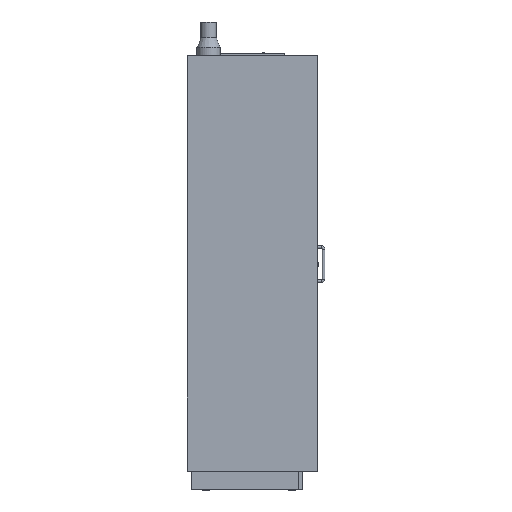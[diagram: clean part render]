
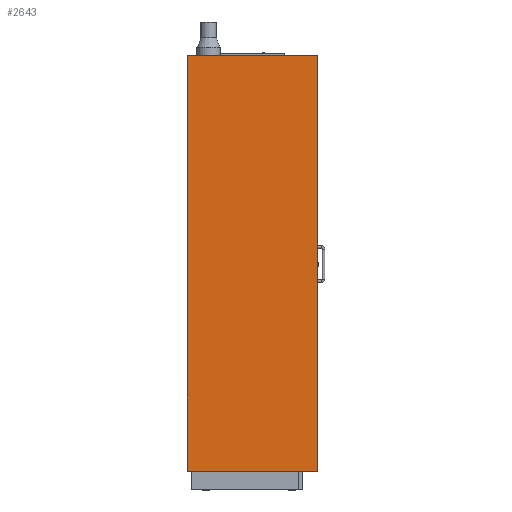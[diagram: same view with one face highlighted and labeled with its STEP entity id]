
A CAD part, left-side view. The second image highlights one B-rep face of the part: STEP entity #2643.
In plain terms, the highlighted planar face has unit normal (-1, 0, 0).
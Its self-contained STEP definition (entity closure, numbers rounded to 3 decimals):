
#81=LINE('',#3573,#269);
#89=LINE('',#3598,#277);
#118=LINE('',#3669,#306);
#123=LINE('',#3679,#311);
#135=LINE('',#3703,#323);
#136=LINE('',#3705,#324);
#137=LINE('',#3707,#325);
#138=LINE('',#3708,#326);
#269=VECTOR('',#3038,1000.);
#277=VECTOR('',#3056,1000.);
#306=VECTOR('',#3115,1000.);
#311=VECTOR('',#3122,1000.);
#323=VECTOR('',#3146,1000.);
#324=VECTOR('',#3149,1000.);
#325=VECTOR('',#3150,1000.);
#326=VECTOR('',#3151,1000.);
#445=PLANE('',#2783);
#715=ORIENTED_EDGE('',*,*,#1107,.T.);
#716=ORIENTED_EDGE('',*,*,#1108,.F.);
#717=ORIENTED_EDGE('',*,*,#1109,.F.);
#718=ORIENTED_EDGE('',*,*,#1057,.F.);
#719=ORIENTED_EDGE('',*,*,#1090,.F.);
#720=ORIENTED_EDGE('',*,*,#1110,.F.);
#721=ORIENTED_EDGE('',*,*,#1095,.F.);
#722=ORIENTED_EDGE('',*,*,#1045,.T.);
#1045=EDGE_CURVE('',#1270,#1271,#81,.T.);
#1057=EDGE_CURVE('',#1282,#1283,#89,.T.);
#1090=EDGE_CURVE('',#1309,#1282,#118,.T.);
#1095=EDGE_CURVE('',#1270,#1312,#123,.T.);
#1107=EDGE_CURVE('',#1271,#1318,#135,.T.);
#1108=EDGE_CURVE('',#1319,#1318,#136,.T.);
#1109=EDGE_CURVE('',#1283,#1319,#137,.T.);
#1110=EDGE_CURVE('',#1312,#1309,#138,.T.);
#1270=VERTEX_POINT('',#3574);
#1271=VERTEX_POINT('',#3575);
#1282=VERTEX_POINT('',#3599);
#1283=VERTEX_POINT('',#3600);
#1309=VERTEX_POINT('',#3670);
#1312=VERTEX_POINT('',#3677);
#1318=VERTEX_POINT('',#3702);
#1319=VERTEX_POINT('',#3706);
#1524=EDGE_LOOP('',(#715,#716,#717,#718,#719,#720,#721,#722));
#1680=FACE_BOUND('',#1524,.T.);
#2643=ADVANCED_FACE('',(#1680),#445,.F.);
#2783=AXIS2_PLACEMENT_3D('',#3704,#3147,#3148);
#3038=DIRECTION('',(0.,1.,0.));
#3056=DIRECTION('',(0.,1.,0.));
#3115=DIRECTION('',(0.,0.,-1.));
#3122=DIRECTION('',(0.,0.,1.));
#3146=DIRECTION('',(0.,0.,1.));
#3147=DIRECTION('',(1.,0.,0.));
#3148=DIRECTION('',(0.,0.,-1.));
#3149=DIRECTION('',(0.,-1.,0.));
#3150=DIRECTION('',(0.,0.,1.));
#3151=DIRECTION('',(0.,-1.,0.));
#3573=CARTESIAN_POINT('',(600.,564.,1954.5));
#3574=CARTESIAN_POINT('',(600.,564.,1954.5));
#3575=CARTESIAN_POINT('',(600.,583.,1954.5));
#3598=CARTESIAN_POINT('',(600.,0.,0.));
#3599=CARTESIAN_POINT('',(600.,0.,0.));
#3600=CARTESIAN_POINT('',(600.,612.,0.));
#3669=CARTESIAN_POINT('',(600.,0.,1956.));
#3670=CARTESIAN_POINT('',(600.,0.,1956.));
#3677=CARTESIAN_POINT('',(600.,564.,1956.));
#3679=CARTESIAN_POINT('',(600.,564.,1954.5));
#3702=CARTESIAN_POINT('',(600.,583.,1956.));
#3703=CARTESIAN_POINT('',(600.,583.,1954.5));
#3704=CARTESIAN_POINT('',(600.,0.,0.));
#3705=CARTESIAN_POINT('',(600.,612.,1956.));
#3706=CARTESIAN_POINT('',(600.,612.,1956.));
#3707=CARTESIAN_POINT('',(600.,612.,0.));
#3708=CARTESIAN_POINT('',(600.,612.,1956.));
